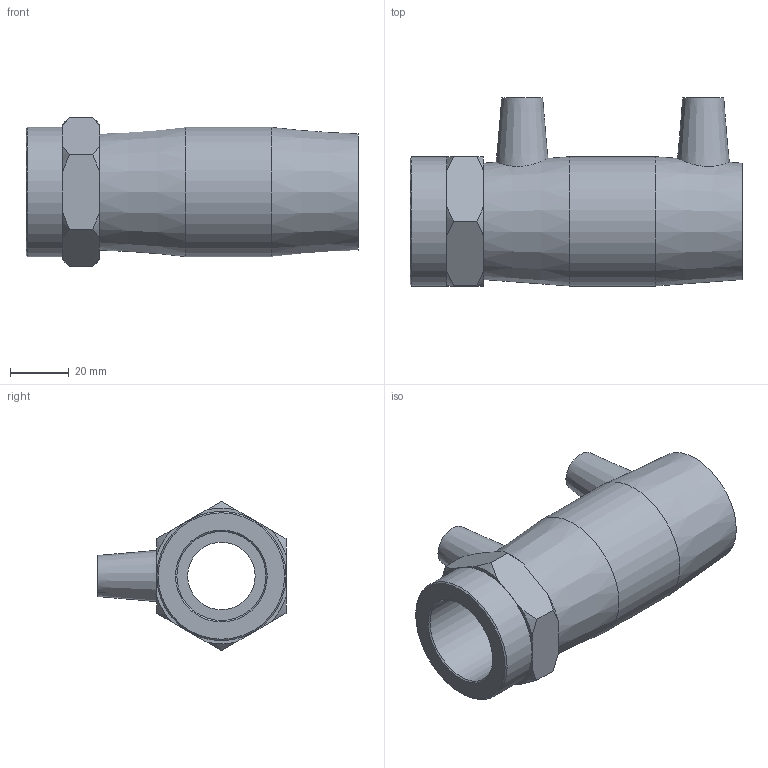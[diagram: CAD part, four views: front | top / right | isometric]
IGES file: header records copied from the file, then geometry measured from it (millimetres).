
Global section: file name: 493104032010.ipt; native system: Autodesk Inventor 2015; preprocessor: unknown; author: KIM; date: 20200202.122438; units: millimetre
Bounding box: 113 x 64 x 50.81 mm (x, y, z)
Volume: 101260.6 mm3; surface area: 30949.6 mm2
Topology: 1 solids, 1 shells, 54 faces, 130 edges, 86 vertices
Faces by surface type: plane 24, cone 17, revolution 9, cylinder 4
Full cylindrical faces by diameter (mm): 4 x2, 44 x2
